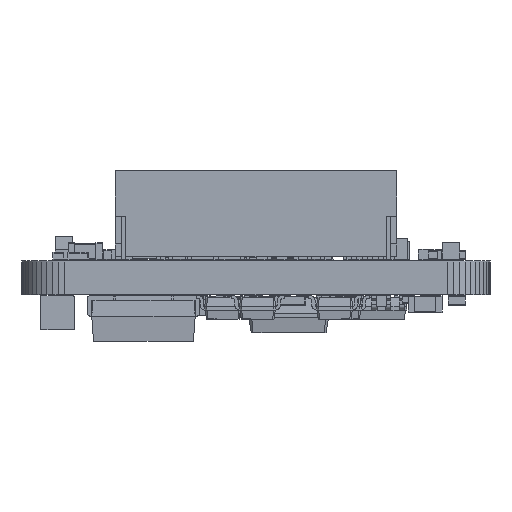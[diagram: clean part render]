
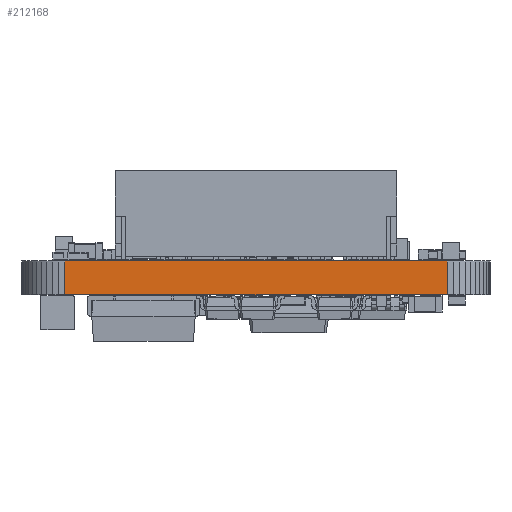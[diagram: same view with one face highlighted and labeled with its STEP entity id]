
A CAD part, front view. The second image highlights one B-rep face of the part: STEP entity #212168.
In plain terms, the highlighted planar face has unit normal (0, -1, 0).
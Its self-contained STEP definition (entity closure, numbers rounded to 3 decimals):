
#204603 = PLANE('',#204604);
#204604 = AXIS2_PLACEMENT_3D('',#204605,#204606,#204607);
#204605 = CARTESIAN_POINT('',(11.,-14.,1.58));
#204606 = DIRECTION('',(-0.,-0.,-1.));
#204607 = DIRECTION('',(-1.,0.,0.));
#204657 = PLANE('',#204658);
#204658 = AXIS2_PLACEMENT_3D('',#204659,#204660,#204661);
#204659 = CARTESIAN_POINT('',(11.,-14.,0.));
#204660 = DIRECTION('',(-0.,-0.,-1.));
#204661 = DIRECTION('',(-1.,0.,0.));
#205354 = VERTEX_POINT('',#205355);
#205355 = CARTESIAN_POINT('',(20.,-28.,0.));
#205369 = PLANE('',#205370);
#205370 = AXIS2_PLACEMENT_3D('',#205371,#205372,#205373);
#205371 = CARTESIAN_POINT('',(20.285,-27.98,0.));
#205372 = DIRECTION('',(0.071,-0.997,0.));
#205373 = DIRECTION('',(-0.997,-0.071,0.));
#205381 = EDGE_CURVE('',#205354,#205382,#205384,.T.);
#205382 = VERTEX_POINT('',#205383);
#205383 = CARTESIAN_POINT('',(2.,-28.,0.));
#205384 = SURFACE_CURVE('',#205385,(#205389,#205396),.PCURVE_S1.);
#205385 = LINE('',#205386,#205387);
#205386 = CARTESIAN_POINT('',(20.,-28.,0.));
#205387 = VECTOR('',#205388,1.);
#205388 = DIRECTION('',(-1.,0.,0.));
#205389 = PCURVE('',#204657,#205390);
#205390 = DEFINITIONAL_REPRESENTATION('',(#205391),#205395);
#205391 = LINE('',#205392,#205393);
#205392 = CARTESIAN_POINT('',(-9.,-14.));
#205393 = VECTOR('',#205394,1.);
#205394 = DIRECTION('',(1.,0.));
#205395 = ( GEOMETRIC_REPRESENTATION_CONTEXT(2) 
PARAMETRIC_REPRESENTATION_CONTEXT() REPRESENTATION_CONTEXT('2D SPACE',''
  ) );
#205396 = PCURVE('',#205397,#205402);
#205397 = PLANE('',#205398);
#205398 = AXIS2_PLACEMENT_3D('',#205399,#205400,#205401);
#205399 = CARTESIAN_POINT('',(20.,-28.,0.));
#205400 = DIRECTION('',(0.,-1.,0.));
#205401 = DIRECTION('',(-1.,0.,0.));
#205402 = DEFINITIONAL_REPRESENTATION('',(#205403),#205407);
#205403 = LINE('',#205404,#205405);
#205404 = CARTESIAN_POINT('',(0.,-0.));
#205405 = VECTOR('',#205406,1.);
#205406 = DIRECTION('',(1.,0.));
#205407 = ( GEOMETRIC_REPRESENTATION_CONTEXT(2) 
PARAMETRIC_REPRESENTATION_CONTEXT() REPRESENTATION_CONTEXT('2D SPACE',''
  ) );
#205425 = PLANE('',#205426);
#205426 = AXIS2_PLACEMENT_3D('',#205427,#205428,#205429);
#205427 = CARTESIAN_POINT('',(2.,-28.,0.));
#205428 = DIRECTION('',(-0.071,-0.997,0.));
#205429 = DIRECTION('',(-0.997,0.071,0.));
#208682 = VERTEX_POINT('',#208683);
#208683 = CARTESIAN_POINT('',(20.,-28.,1.58));
#208704 = EDGE_CURVE('',#208682,#208705,#208707,.T.);
#208705 = VERTEX_POINT('',#208706);
#208706 = CARTESIAN_POINT('',(2.,-28.,1.58));
#208707 = SURFACE_CURVE('',#208708,(#208712,#208719),.PCURVE_S1.);
#208708 = LINE('',#208709,#208710);
#208709 = CARTESIAN_POINT('',(20.,-28.,1.58));
#208710 = VECTOR('',#208711,1.);
#208711 = DIRECTION('',(-1.,0.,0.));
#208712 = PCURVE('',#204603,#208713);
#208713 = DEFINITIONAL_REPRESENTATION('',(#208714),#208718);
#208714 = LINE('',#208715,#208716);
#208715 = CARTESIAN_POINT('',(-9.,-14.));
#208716 = VECTOR('',#208717,1.);
#208717 = DIRECTION('',(1.,0.));
#208718 = ( GEOMETRIC_REPRESENTATION_CONTEXT(2) 
PARAMETRIC_REPRESENTATION_CONTEXT() REPRESENTATION_CONTEXT('2D SPACE',''
  ) );
#208719 = PCURVE('',#205397,#208720);
#208720 = DEFINITIONAL_REPRESENTATION('',(#208721),#208725);
#208721 = LINE('',#208722,#208723);
#208722 = CARTESIAN_POINT('',(0.,-1.58));
#208723 = VECTOR('',#208724,1.);
#208724 = DIRECTION('',(1.,0.));
#208725 = ( GEOMETRIC_REPRESENTATION_CONTEXT(2) 
PARAMETRIC_REPRESENTATION_CONTEXT() REPRESENTATION_CONTEXT('2D SPACE',''
  ) );
#212120 = EDGE_CURVE('',#205354,#208682,#212121,.T.);
#212121 = SURFACE_CURVE('',#212122,(#212126,#212133),.PCURVE_S1.);
#212122 = LINE('',#212123,#212124);
#212123 = CARTESIAN_POINT('',(20.,-28.,0.));
#212124 = VECTOR('',#212125,1.);
#212125 = DIRECTION('',(0.,0.,1.));
#212126 = PCURVE('',#205369,#212127);
#212127 = DEFINITIONAL_REPRESENTATION('',(#212128),#212132);
#212128 = LINE('',#212129,#212130);
#212129 = CARTESIAN_POINT('',(0.285,0.));
#212130 = VECTOR('',#212131,1.);
#212131 = DIRECTION('',(0.,-1.));
#212132 = ( GEOMETRIC_REPRESENTATION_CONTEXT(2) 
PARAMETRIC_REPRESENTATION_CONTEXT() REPRESENTATION_CONTEXT('2D SPACE',''
  ) );
#212133 = PCURVE('',#205397,#212134);
#212134 = DEFINITIONAL_REPRESENTATION('',(#212135),#212139);
#212135 = LINE('',#212136,#212137);
#212136 = CARTESIAN_POINT('',(0.,-0.));
#212137 = VECTOR('',#212138,1.);
#212138 = DIRECTION('',(0.,-1.));
#212139 = ( GEOMETRIC_REPRESENTATION_CONTEXT(2) 
PARAMETRIC_REPRESENTATION_CONTEXT() REPRESENTATION_CONTEXT('2D SPACE',''
  ) );
#212168 = ADVANCED_FACE('',(#212169),#205397,.T.);
#212169 = FACE_BOUND('',#212170,.T.);
#212170 = EDGE_LOOP('',(#212171,#212172,#212173,#212194));
#212171 = ORIENTED_EDGE('',*,*,#212120,.T.);
#212172 = ORIENTED_EDGE('',*,*,#208704,.T.);
#212173 = ORIENTED_EDGE('',*,*,#212174,.F.);
#212174 = EDGE_CURVE('',#205382,#208705,#212175,.T.);
#212175 = SURFACE_CURVE('',#212176,(#212180,#212187),.PCURVE_S1.);
#212176 = LINE('',#212177,#212178);
#212177 = CARTESIAN_POINT('',(2.,-28.,0.));
#212178 = VECTOR('',#212179,1.);
#212179 = DIRECTION('',(0.,0.,1.));
#212180 = PCURVE('',#205397,#212181);
#212181 = DEFINITIONAL_REPRESENTATION('',(#212182),#212186);
#212182 = LINE('',#212183,#212184);
#212183 = CARTESIAN_POINT('',(18.,0.));
#212184 = VECTOR('',#212185,1.);
#212185 = DIRECTION('',(0.,-1.));
#212186 = ( GEOMETRIC_REPRESENTATION_CONTEXT(2) 
PARAMETRIC_REPRESENTATION_CONTEXT() REPRESENTATION_CONTEXT('2D SPACE',''
  ) );
#212187 = PCURVE('',#205425,#212188);
#212188 = DEFINITIONAL_REPRESENTATION('',(#212189),#212193);
#212189 = LINE('',#212190,#212191);
#212190 = CARTESIAN_POINT('',(0.,0.));
#212191 = VECTOR('',#212192,1.);
#212192 = DIRECTION('',(0.,-1.));
#212193 = ( GEOMETRIC_REPRESENTATION_CONTEXT(2) 
PARAMETRIC_REPRESENTATION_CONTEXT() REPRESENTATION_CONTEXT('2D SPACE',''
  ) );
#212194 = ORIENTED_EDGE('',*,*,#205381,.F.);
